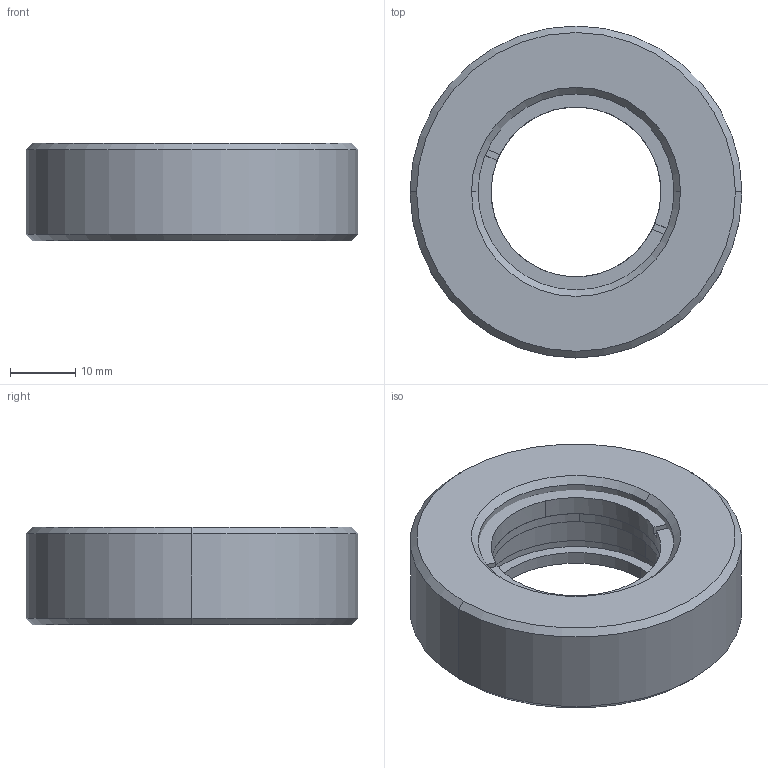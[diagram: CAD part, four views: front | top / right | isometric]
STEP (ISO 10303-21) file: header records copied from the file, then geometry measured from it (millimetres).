
FILE_DESCRIPTION (( 'STEP AP203' ), '1' );
FILE_NAME ('ACOA30-2.STEP', '2022-07-22T08:50:01', ( '' ), ( '' ), 'SwSTEP 2.0', 'SolidWorks 2021', '' );
FILE_SCHEMA (( 'CONFIG_CONTROL_DESIGN' ));
Length unit declared in the file: millimetre
Products named in the file (1): ACOA30-2
Bounding box: 50.8 x 50.8 x 15 mm (x, y, z)
Volume: 20608.4 mm3; surface area: 8075.4 mm2
Topology: 3 solids, 3 shells, 215 faces, 585 edges, 387 vertices
Faces by surface type: plane 188, cylinder 16, cone 11
Entity records: 6767 total; most frequent: CARTESIAN_POINT 1200, ORIENTED_EDGE 1170, DIRECTION 1064, EDGE_CURVE 585, LINE 530, VECTOR 530, VERTEX_POINT 387, AXIS2_PLACEMENT_3D 267
